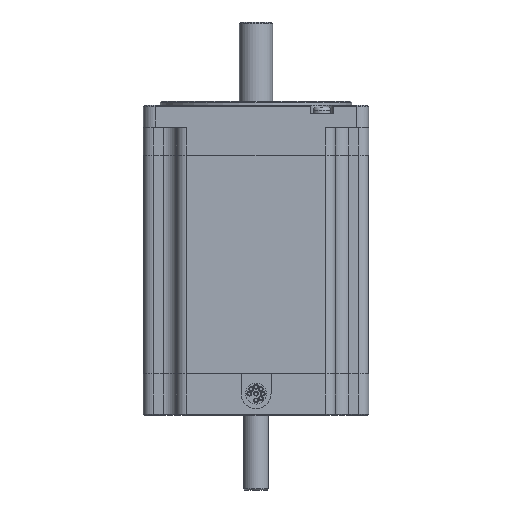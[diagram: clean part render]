
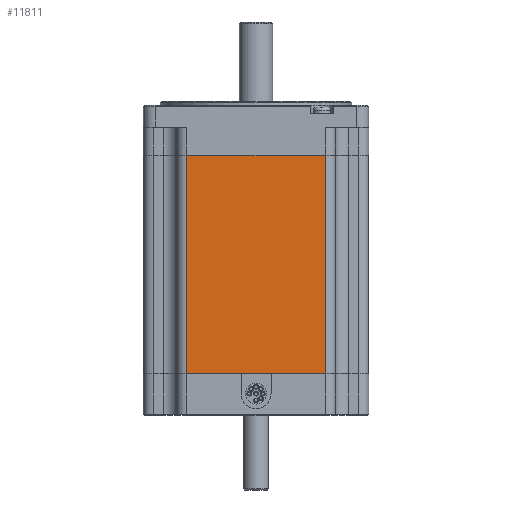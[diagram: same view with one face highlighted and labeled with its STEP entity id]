
A CAD part, front view. The second image highlights one B-rep face of the part: STEP entity #11811.
In plain terms, the highlighted planar face has unit normal (0, -1, 0).
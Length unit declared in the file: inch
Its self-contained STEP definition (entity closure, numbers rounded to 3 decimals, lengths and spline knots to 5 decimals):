
#1225 = DIRECTION ( 'NONE',  ( -1., 0., 0. ) ) ;
#1226 = VECTOR ( 'NONE', #1225, 39.37008 ) ;
#1227 = CARTESIAN_POINT ( 'NONE',  ( 1.04, -1.689, -0.75 ) ) ;
#1228 = LINE ( 'NONE', #1227, #1226 ) ;
#1232 = CARTESIAN_POINT ( 'NONE',  ( -1.04, -1.689, -0.75 ) ) ;
#1468 = VERTEX_POINT ( 'NONE', #1232 ) ;
#1469 = EDGE_CURVE ( 'NONE', #2941, #1468, #1228, .T. ) ;
#2941 = VERTEX_POINT ( 'NONE', #16783 ) ;
#10486 = CARTESIAN_POINT ( 'NONE',  ( 1.04, -1.689, -4.025 ) ) ;
#10594 = DIRECTION ( 'NONE',  ( 0., 0., 1. ) ) ;
#10595 = VECTOR ( 'NONE', #10594, 39.37008 ) ;
#10596 = CARTESIAN_POINT ( 'NONE',  ( 1.04, -1.689, -4.025 ) ) ;
#10597 = LINE ( 'NONE', #10596, #10595 ) ;
#11791 = FACE_OUTER_BOUND ( 'NONE', #12240, .T. ) ;
#11809 = ORIENTED_EDGE ( 'NONE', *, *, #17981, .T. ) ;
#11811 = ADVANCED_FACE ( 'NONE', ( #11791 ), #11813, .F. ) ;
#11813 = PLANE ( 'NONE',  #11830 ) ;
#11830 = AXIS2_PLACEMENT_3D ( 'NONE', #11840, #11839, #11838 ) ;
#11837 = LINE ( 'NONE', #11886, #11885 ) ;
#11838 = DIRECTION ( 'NONE',  ( -1., 0., 0. ) ) ;
#11839 = DIRECTION ( 'NONE',  ( 0., 1., 0. ) ) ;
#11840 = CARTESIAN_POINT ( 'NONE',  ( 1.04, -1.689, -4.025 ) ) ;
#11841 = LINE ( 'NONE', #11892, #11891 ) ;
#11884 = DIRECTION ( 'NONE',  ( 0., 0., 1. ) ) ;
#11885 = VECTOR ( 'NONE', #11884, 39.37008 ) ;
#11886 = CARTESIAN_POINT ( 'NONE',  ( -1.04, -1.689, -4.025 ) ) ;
#11890 = DIRECTION ( 'NONE',  ( -1., 0., 0. ) ) ;
#11891 = VECTOR ( 'NONE', #11890, 39.37008 ) ;
#11892 = CARTESIAN_POINT ( 'NONE',  ( 1.04, -1.689, -4.025 ) ) ;
#11893 = CARTESIAN_POINT ( 'NONE',  ( -1.04, -1.689, -4.025 ) ) ;
#11978 = EDGE_CURVE ( 'NONE', #17517, #12091, #11841, .T. ) ;
#12091 = VERTEX_POINT ( 'NONE', #11893 ) ;
#12132 = ORIENTED_EDGE ( 'NONE', *, *, #1469, .T. ) ;
#12190 = EDGE_CURVE ( 'NONE', #12091, #1468, #11837, .T. ) ;
#12240 = EDGE_LOOP ( 'NONE', ( #12132, #12261, #12378, #11809 ) ) ;
#12261 = ORIENTED_EDGE ( 'NONE', *, *, #12190, .F. ) ;
#12378 = ORIENTED_EDGE ( 'NONE', *, *, #11978, .F. ) ;
#16783 = CARTESIAN_POINT ( 'NONE',  ( 1.04, -1.689, -0.75 ) ) ;
#17517 = VERTEX_POINT ( 'NONE', #10486 ) ;
#17981 = EDGE_CURVE ( 'NONE', #17517, #2941, #10597, .T. ) ;
